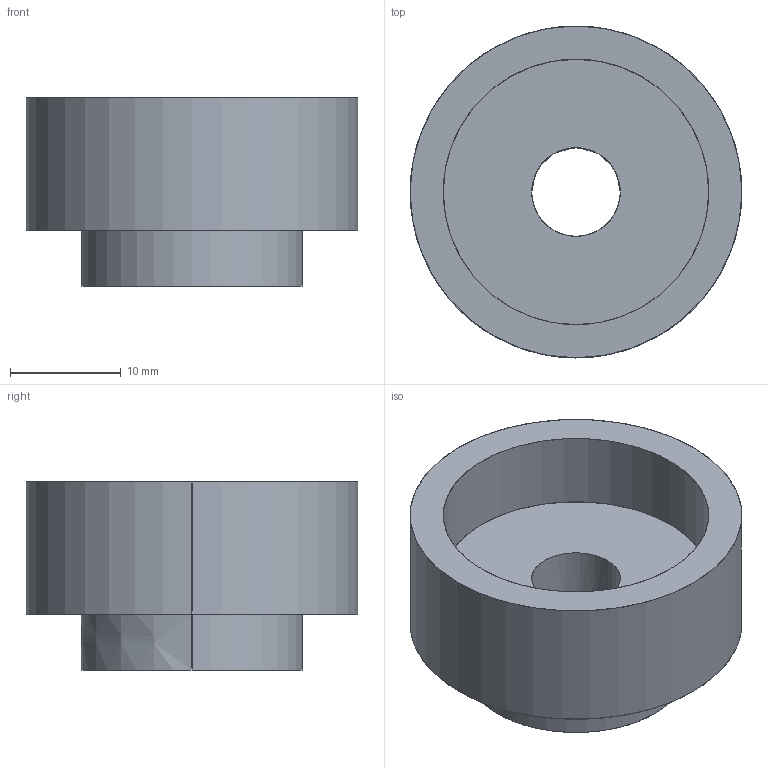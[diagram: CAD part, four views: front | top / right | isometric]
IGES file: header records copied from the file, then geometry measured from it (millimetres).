
Start section: SolidWorks IGES file using analytic representation for surfaces
Global section: file name: X:\11_SW2020-Inv2020\00_全2021-11新製品まで\b\BJ750-08001N\bj750-08001n.IGS; native system: SolidWorks 2020; preprocessor: SolidWorks 2020; author: ImaoCorp; date: 211025.091447; units: millimetre
Bounding box: 30 x 30 x 17 mm (x, y, z)
Surface area: 3567.8 mm2 (no closed solid volume)
Topology: 0 solids, 0 shells, 14 faces, 460 edges, 460 vertices
Faces by surface type: revolution 10, bspline 4
